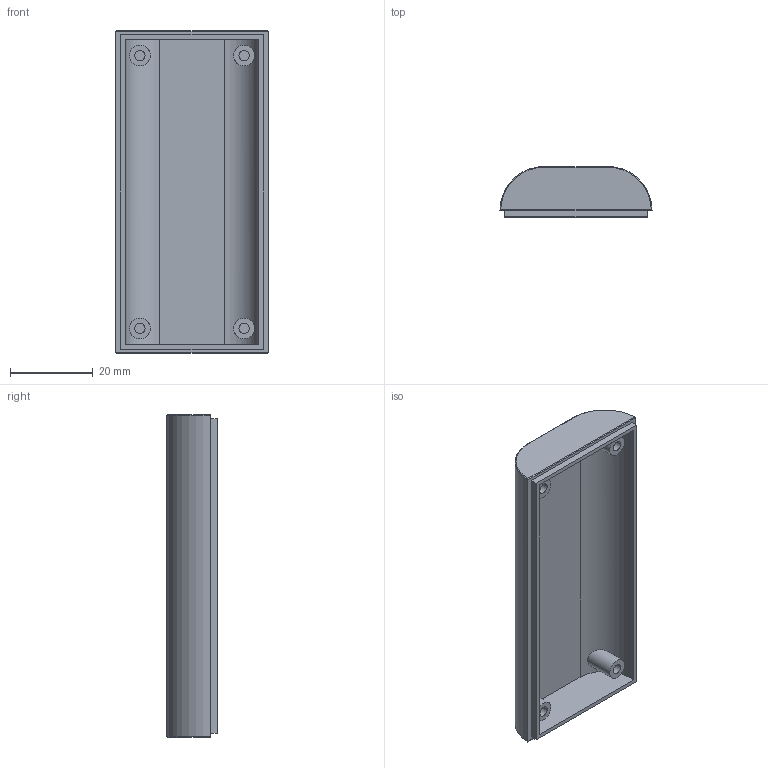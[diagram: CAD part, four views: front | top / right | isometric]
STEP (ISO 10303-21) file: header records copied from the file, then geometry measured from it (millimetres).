
FILE_DESCRIPTION (( 'STEP AP214' ), '1' );
FILE_NAME ('Tapa PP23.STEP', '2017-11-28T11:08:44', ( 'aaa' ), ( '' ), 'SwSTEP 2.0', 'SolidWorks 2013', '' );
FILE_SCHEMA (( 'AUTOMOTIVE_DESIGN' ));
Length unit declared in the file: millimetre
Products named in the file (1): Tapa PP23
Bounding box: 36.8 x 12.2 x 78 mm (x, y, z)
Volume: 9442.3 mm3; surface area: 9848.4 mm2
Topology: 1 solids, 1 shells, 50 faces, 106 edges, 68 vertices
Faces by surface type: cylinder 24, plane 22, torus 4
Entity records: 1632 total; most frequent: CARTESIAN_POINT 501, DIRECTION 236, ORIENTED_EDGE 212, EDGE_CURVE 106, AXIS2_PLACEMENT_3D 91, VERTEX_POINT 68, EDGE_LOOP 60, LINE 54
